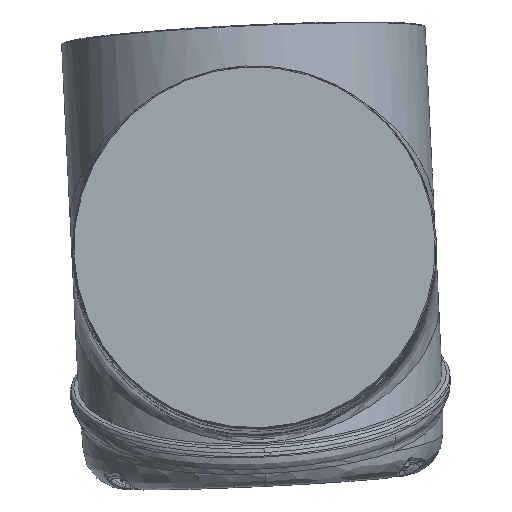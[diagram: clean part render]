
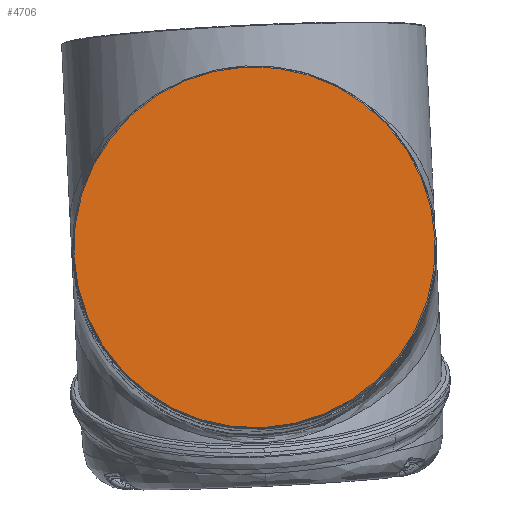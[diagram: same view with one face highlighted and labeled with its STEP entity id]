
A CAD part, left-side view. The second image highlights one B-rep face of the part: STEP entity #4706.
In plain terms, the highlighted planar face has unit normal (-0.999, 0, 0.055).
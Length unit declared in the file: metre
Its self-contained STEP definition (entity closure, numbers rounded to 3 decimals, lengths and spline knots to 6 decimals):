
#97=PLANE('',#5467);
#234=CIRCLE('',#5296,0.0447);
#1883=ORIENTED_EDGE('',*,*,#2124,.F.);
#2124=EDGE_CURVE('NONE',#2827,#2827,#234,.T.);
#2827=VERTEX_POINT('',#9361);
#3981=EDGE_LOOP('',(#1883));
#4298=FACE_BOUND('',#3981,.T.);
#4706=ADVANCED_FACE('N',(#4298),#97,.T.);
#5296=AXIS2_PLACEMENT_3D('',#9360,#5614,#5615);
#5467=AXIS2_PLACEMENT_3D('',#20997,#5990,#5991);
#5614=DIRECTION('',(0.998,0.,-0.055));
#5615=DIRECTION('',(-0.003,0.999,-0.048));
#5990=DIRECTION('',(-0.998,0.,0.055));
#5991=DIRECTION('',(0.003,-0.999,0.048));
#9360=CARTESIAN_POINT('',(0.127189,0.374131,0.569955));
#9361=CARTESIAN_POINT('',(0.12707,0.418778,0.567794));
#20997=CARTESIAN_POINT('',(0.127189,0.374131,0.569955));
